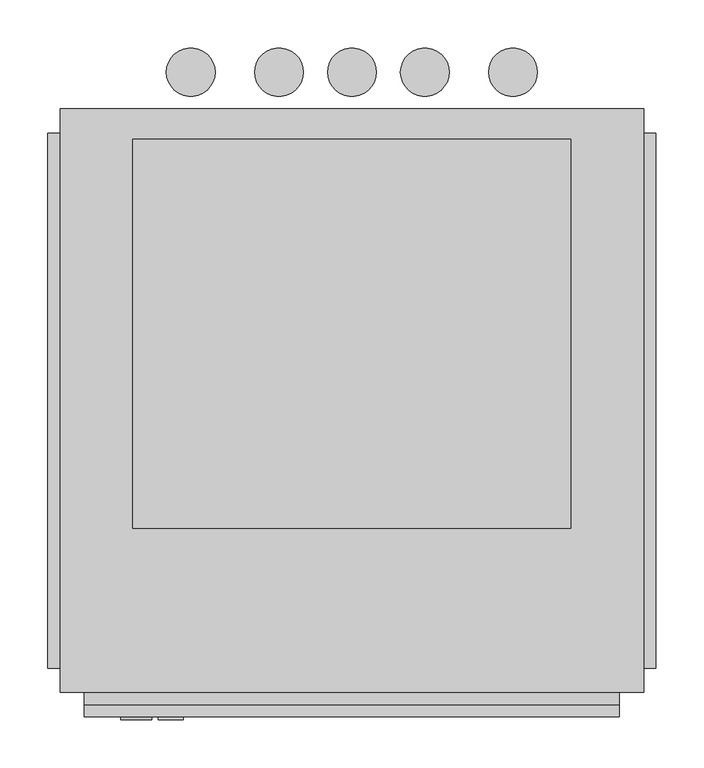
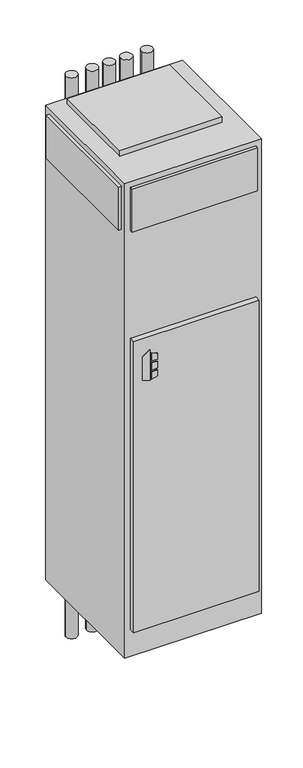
"""IFC4 building model written with IfcOpenShell, lengths in millimetres: proxy geometry, Concealed_Modular_Fan_Coil_Unit_-_MPY_-_IEC_-_4-Pipe_-_WithRisers_2022 : Size 10 - 277v/60Hz/1Ph - 4/1 Coil."""

from ifc_helpers import new_model, si_unit, point, frame, frame_2d, origin, origin_with_axes, place, context, project, spatial, polyline, circle_curve, trimmed, segment, composite_curve, outline, extrude, source, transform, mapped, element, save


def mechanical_equipment_45dd22f4(model_context):
    return source(origin(), model_context, "Body", "SweptSolid", [
        extrude(outline(polyline([(1305.3480703, 215.9), (1295.4, 248.0733866), (1437.5709244, 248.0733866), (1414.5489183, 215.9), (1305.3480703, 215.9)])), frame((0.0, -393.7, 0.0), z_axis=(0.0, 1.0, 0.0), x_axis=(0.0, 0.0, 1.0)), (0.0, 0.0, 1.0), 3.175),
        extrude(outline(polyline([(1384.3473557, 254.8317195), (1381.1449632, 280.9131138), (1410.3738042, 280.9131138), (1418.4382193, 254.8317195), (1384.3473557, 254.8317195)])), frame((0.0, -393.7, 0.0), z_axis=(0.0, 1.0, 0.0), x_axis=(0.0, 0.0, 1.0)), (0.0, 0.0, 1.0), 3.175),
        extrude(outline(polyline([(1332.4838288, 280.9131138), (1328.8183279, 254.8317195), (1295.4, 254.8317195), (1304.0342372, 280.9131138), (1332.4838288, 280.9131138)])), frame((0.0, -393.7, 0.0), z_axis=(0.0, 1.0, 0.0), x_axis=(0.0, 0.0, 1.0)), (0.0, 0.0, 1.0), 3.175),
        extrude(outline(polyline([(1371.7989903, 280.9131138), (1374.0808166, 254.8317195), (1338.1432681, 254.8317195), (1340.8845331, 280.9131138), (1371.7989903, 280.9131138)])), frame((0.0, -393.7, 0.0), z_axis=(0.0, 1.0, 0.0), x_axis=(0.0, 0.0, 1.0)), (0.0, 0.0, 1.0), 3.175),
        extrude(outline(composite_curve([segment(trimmed(circle_curve(frame_2d((457.2, 282.575)), 25.4), [point((431.8, 282.575))], [point((482.6, 282.575))], False, "CARTESIAN"), True, "CONTINUOUS"), segment(trimmed(circle_curve(frame_2d((457.2, 282.575)), 25.4), [point((482.6, 282.575))], [point((431.8, 282.575))], False, "CARTESIAN"), True, "CONTINUOUS")], self_intersect=False)), frame((0.0, 0.0, -330.2), z_axis=(0.0, 0.0, 1.0), x_axis=(1.0, 0.0, 0.0)), (0.0, 0.0, 1.0), 2641.6),
        extrude(outline(composite_curve([segment(trimmed(circle_curve(frame_2d((533.4, 282.575)), 25.4), [point((508.0, 282.575))], [point((558.8, 282.575))], False, "CARTESIAN"), True, "CONTINUOUS"), segment(trimmed(circle_curve(frame_2d((533.4, 282.575)), 25.4), [point((558.8, 282.575))], [point((508.0, 282.575))], False, "CARTESIAN"), True, "CONTINUOUS")], self_intersect=False)), frame((0.0, 0.0, -330.2), z_axis=(0.0, 0.0, 1.0), x_axis=(1.0, 0.0, 0.0)), (0.0, 0.0, 1.0), 2641.6),
        extrude(outline(composite_curve([segment(trimmed(circle_curve(frame_2d((625.475, 282.575)), 25.4), [point((600.075, 282.575))], [point((650.875, 282.575))], False, "CARTESIAN"), True, "CONTINUOUS"), segment(trimmed(circle_curve(frame_2d((625.475, 282.575)), 25.4), [point((650.875, 282.575))], [point((600.075, 282.575))], False, "CARTESIAN"), True, "CONTINUOUS")], self_intersect=False)), frame((0.0, 0.0, -330.2), z_axis=(0.0, 0.0, 1.0), x_axis=(1.0, 0.0, 0.0)), (0.0, 0.0, 1.0), 2641.6),
        extrude(outline(composite_curve([segment(trimmed(circle_curve(frame_2d((381.0, 282.575)), 25.4), [point((355.6, 282.575))], [point((406.4, 282.575))], False, "CARTESIAN"), True, "CONTINUOUS"), segment(trimmed(circle_curve(frame_2d((381.0, 282.575)), 25.4), [point((406.4, 282.575))], [point((355.6, 282.575))], False, "CARTESIAN"), True, "CONTINUOUS")], self_intersect=False)), frame((0.0, 0.0, -330.2), z_axis=(0.0, 0.0, 1.0), x_axis=(1.0, 0.0, 0.0)), (0.0, 0.0, 1.0), 2641.6),
        extrude(outline(composite_curve([segment(trimmed(circle_curve(frame_2d((288.925, 282.575)), 25.4), [point((263.525, 282.575))], [point((314.325, 282.575))], False, "CARTESIAN"), True, "CONTINUOUS"), segment(trimmed(circle_curve(frame_2d((288.925, 282.575)), 25.4), [point((314.325, 282.575))], [point((263.525, 282.575))], False, "CARTESIAN"), True, "CONTINUOUS")], self_intersect=False)), frame((0.0, 0.0, -330.2), z_axis=(0.0, 0.0, 1.0), x_axis=(1.0, 0.0, 0.0)), (0.0, 0.0, 1.0), 2641.6),
        extrude(outline(polyline([(685.8, 212.725), (685.8, -193.675), (228.6, -193.675), (228.6, 212.725), (685.8, 212.725)])), frame((0.0, 0.0, 2235.2), z_axis=(0.0, 0.0, 1.0), x_axis=(1.0, 0.0, 0.0)), (0.0, 0.0, 1.0), 25.4),
        extrude(outline(polyline([(139.7, -339.725), (139.7, 219.075), (152.4, 219.075), (152.4, -339.725), (139.7, -339.725)])), frame((0.0, 0.0, 2006.6), z_axis=(0.0, 0.0, 1.0), x_axis=(1.0, 0.0, 0.0)), (0.0, 0.0, 1.0), 203.2),
        extrude(outline(polyline([(774.7, 219.075), (774.7, -339.725), (762.0, -339.725), (762.0, 219.075), (774.7, 219.075)])), frame((0.0, 0.0, 2006.6), z_axis=(0.0, 0.0, 1.0), x_axis=(1.0, 0.0, 0.0)), (0.0, 0.0, 1.0), 203.2),
        extrude(outline(polyline([(736.6, -377.825), (177.8, -377.825), (177.8, -365.125), (736.6, -365.125), (736.6, -377.825)])), frame((0.0, 0.0, 2006.6), z_axis=(0.0, 0.0, 1.0), x_axis=(1.0, 0.0, 0.0)), (0.0, 0.0, 1.0), 203.2),
        extrude(outline(polyline([(736.6, -390.525), (177.8, -390.525), (177.8, -365.125), (736.6, -365.125), (736.6, -390.525)])), frame((0.0, 0.0, 127.0), z_axis=(0.0, 0.0, 1.0), x_axis=(1.0, 0.0, 0.0)), (0.0, 0.0, 1.0), 1371.6),
        extrude(outline(polyline([(762.0, 244.475), (762.0, -365.125), (152.4, -365.125), (152.4, 244.475), (762.0, 244.475)])), origin_with_axes(), (0.0, 0.0, 1.0), 2235.2),
    ])


if __name__ == "__main__":
    model = new_model("IFC4")
    model_context = context("Model", 3, world=origin())
    ifc_project = project(units=[si_unit("LENGTHUNIT", "METRE", prefix="MILLI")], contexts=[model_context])
    site = spatial("IfcSite", under=ifc_project)
    building = spatial("IfcBuilding", under=site)
    placement = place(None, origin())
    mechanical_equipment_shape = mechanical_equipment_45dd22f4(model_context)
    element("IfcBuildingElementProxy", 1, Name="Concealed_Modular_Fan_Coil_Unit_-_MPY_-_IEC_-_4-Pipe_-_WithRisers_2022 : Size 10 - 277v/60Hz/1Ph - 4/1 Coil", ObjectType="Concealed_Modular_Fan_Coil_Unit_-_MPY_-_IEC_-_4-Pipe_-_WithRisers_2022 : Size 10 - 277v/60Hz/1Ph - 4/1 Coil", at=placement, inside=building, context=model_context, shape_type="MappedRepresentation", body=[
        mapped(mechanical_equipment_shape, transform((0.0, 0.0, 0.0), x_axis=(1.0, 0.0, 0.0), y_axis=(0.0, 1.0, 0.0), z_axis=(0.0, 0.0, 1.0))),
    ])
    save(model, "model.ifc")
